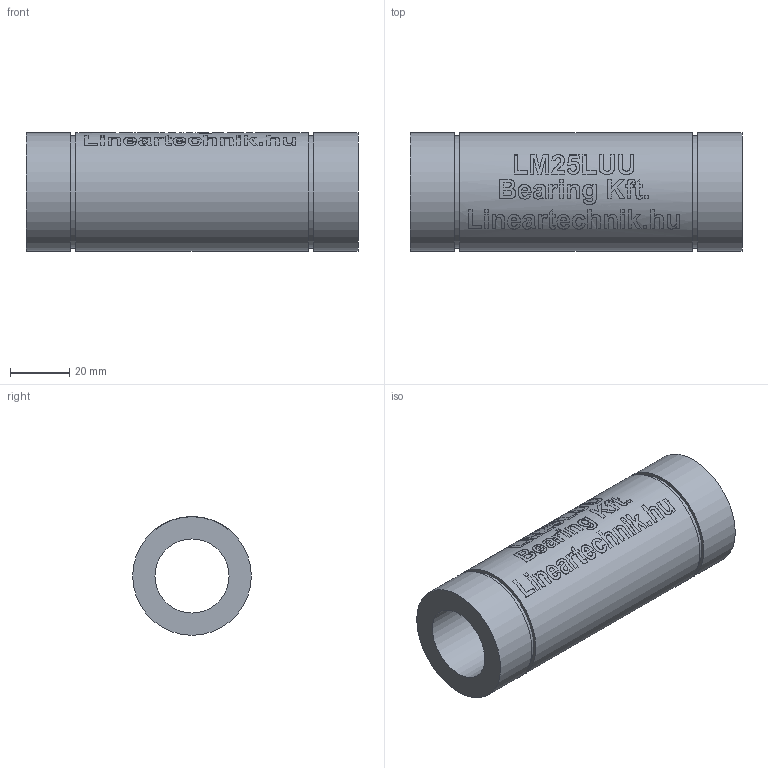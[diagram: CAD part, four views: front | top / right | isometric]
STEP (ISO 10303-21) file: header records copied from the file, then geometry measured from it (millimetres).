
FILE_DESCRIPTION(/* description */ (''),/* implementation_level */ '2;1');
FILE_NAME(/* name */ 'LM25LUU',/* time_stamp */ '2019-05-16T09:38:34+02:00',/* author */ ('VĂ©gh MĂˇtĂ©'),/* organization */ ('Bearing Kft'),/* preprocessor_version */ 'ST-DEVELOPER v16.7',/* originating_system */ 'DEX',/* authorisation */ $);
FILE_SCHEMA (('AUTOMOTIVE_DESIGN {1 0 10303 214 3 1 1}'));
Length unit declared in the file: millimetre
Products named in the file (1): LM25LUU
Bounding box: 112 x 40 x 40 mm (x, y, z)
Volume: 85261.2 mm3; surface area: 24956.3 mm2
Topology: 1 solids, 1 shells, 311 faces, 782 edges, 522 vertices
Faces by surface type: plane 163, bspline 97, cylinder 51
Full cylindrical faces by diameter (mm): 25 x1, 38 x2, 40 x3
Entity records: 22699 total; most frequent: CARTESIAN_POINT 15750, ORIENTED_EDGE 1546, DIRECTION 1152, EDGE_CURVE 773, VERTEX_POINT 520, LINE 430, VECTOR 430, EDGE_LOOP 369
